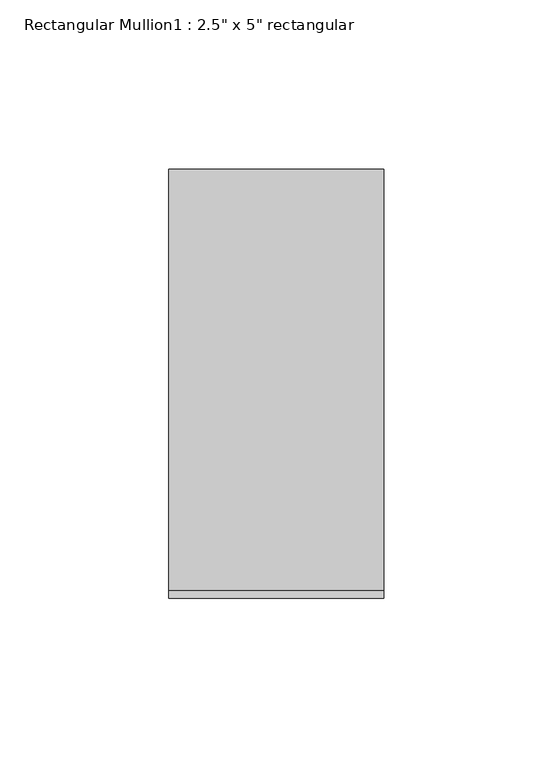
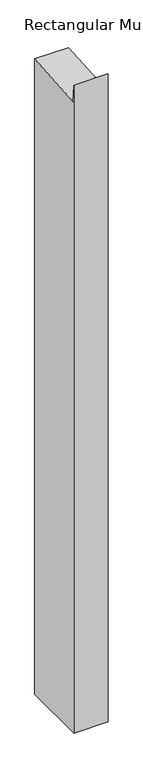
"""IFC4 building model written with IfcOpenShell, lengths in millimetres: member geometry."""

from ifc_helpers import new_model, si_unit, frame, origin, place, context, project, spatial, polyline, outline, extrude, source, transform, mapped, element, save


def member_fbb04c12(model_context):
    return source(origin(), model_context, "Body", "SweptSolid", [
        extrude(outline(polyline([(-63.5, 29.5516342), (-61.1522336, -4.315452), (63.5, 4.3258089), (63.5, -1249.2609667), (-63.5, -1249.2609667), (-63.5, 29.5516342)])), frame((-63.5, 0.0, 0.0), z_axis=(1.0, 0.0, 0.0), x_axis=(0.0, 1.0, 0.0)), (0.0, 0.0, 1.0), 63.5),
    ])


if __name__ == "__main__":
    model = new_model("IFC4")
    model_context = context("Model", 3, world=origin())
    ifc_project = project(units=[si_unit("LENGTHUNIT", "METRE", prefix="MILLI")], contexts=[model_context])
    site = spatial("IfcSite", under=ifc_project)
    building = spatial("IfcBuilding", under=site)
    placement = place(None, origin())
    member_shape = member_fbb04c12(model_context)
    element("IfcMember", 1, ObjectType="Rectangular Mullion1 : 2.5\" x 5\" rectangular", at=placement, inside=building, context=model_context, shape_type="MappedRepresentation", body=[
        mapped(member_shape, transform((0.0, 0.0, 0.0), x_axis=(1.0, 0.0, 0.0), y_axis=(0.0, 1.0, 0.0), z_axis=(0.0, 0.0, 1.0))),
    ])
    save(model, "model.ifc")
